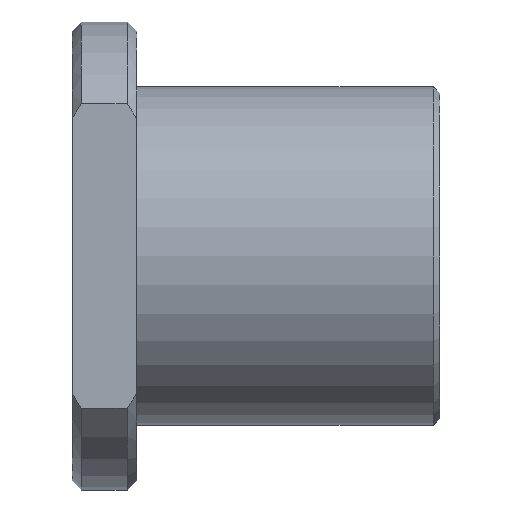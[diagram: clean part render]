
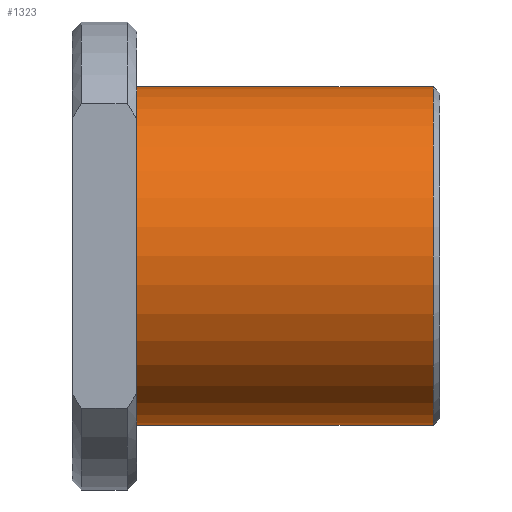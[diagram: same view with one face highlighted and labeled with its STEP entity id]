
A CAD part, front view. The second image highlights one B-rep face of the part: STEP entity #1323.
In plain terms, the highlighted cylindrical face has radius 52.5 mm (diameter 105 mm), a partial arc.
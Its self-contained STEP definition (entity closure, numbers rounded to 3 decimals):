
#1230=CARTESIAN_POINT('POINT77',(20.,0.,
   52.5));
#1231=VERTEX_POINT('VERTEX77',#1230);
#1232=CARTESIAN_POINT('POINT78',(20.,0.,
   -52.5));
#1233=VERTEX_POINT('VERTEX78',#1232);
#1234=CARTESIAN_POINT('POS97',(20.,0.,0.))
   ;
#1235=DIRECTION('DIR151',(1.,0.,0.));
#1236=DIRECTION('DIR152',(0.,0.,1.));
#1237=AXIS2_PLACEMENT_3D('AXIS55',#1234,#1235,#1236);
#1238=CIRCLE('ELLIPSE31',#1237,52.5);
#1239=EDGE_CURVE('EDGE121',#1231,#1233,#1238,.T.);
#1259=CARTESIAN_POINT('POINT79',(111.9,0.,
   52.5));
#1260=VERTEX_POINT('VERTEX79',#1259);
#1261=CARTESIAN_POINT('POS99',(65.95,0.,
   52.5));
#1262=DIRECTION('DIR155',(1.,0.,0.));
#1263=VECTOR('VEC43',#1262,1.);
#1264=LINE('STRAIGHT43',#1261,#1263);
#1265=EDGE_CURVE('EDGE123',#1231,#1260,#1264,.T.);
#1267=CARTESIAN_POINT('POINT80',(111.9,0.,
   -52.5));
#1268=VERTEX_POINT('VERTEX80',#1267);
#1269=CARTESIAN_POINT('POS100',(111.9,0.,
   0.));
#1270=DIRECTION('DIR156',(1.,0.,0.));
#1271=DIRECTION('DIR157',(0.,0.,1.));
#1272=AXIS2_PLACEMENT_3D('AXIS57',#1269,#1270,#1271);
#1273=CIRCLE('ELLIPSE32',#1272,52.5);
#1276=CARTESIAN_POINT('POS101',(65.95,0.,
   -52.5));
#1277=DIRECTION('DIR158',(-1.,0.,0.));
#1278=VECTOR('VEC44',#1277,1.);
#1279=LINE('STRAIGHT44',#1276,#1278);
#1280=EDGE_CURVE('EDGE125',#1268,#1233,#1279,.T.);
#1285=CARTESIAN_POINT('POS102',(65.95,0.,
   0.));
#1286=DIRECTION('DIR159',(1.,0.,0.));
#1287=DIRECTION('DIR160',(0.,0.,1.));
#1288=AXIS2_PLACEMENT_3D('AXIS58',#1285,#1286,#1287);
#1289=CYLINDRICAL_SURFACE('CONE_SURF19',#1288,52.5);
#1316=ORIENTED_EDGE('COEDGE249',*,*,#1265,.F.);
#1317=ORIENTED_EDGE('COEDGE250',*,*,#1239,.T.);
#1318=ORIENTED_EDGE('COEDGE251',*,*,#1280,.F.);
#1319=EDGE_CURVE('EDGE128',#1260,#1268,#1273,.T.);
#1320=ORIENTED_EDGE('COEDGE252',*,*,#1319,.F.);
#1321=EDGE_LOOP('NONE',(#1316,#1317,#1318,#1320));
#1322=FACE_BOUND('LOOP1',#1321,.T.);
#1323=ADVANCED_FACE('FACE52',(#1322),#1289,.T.);
